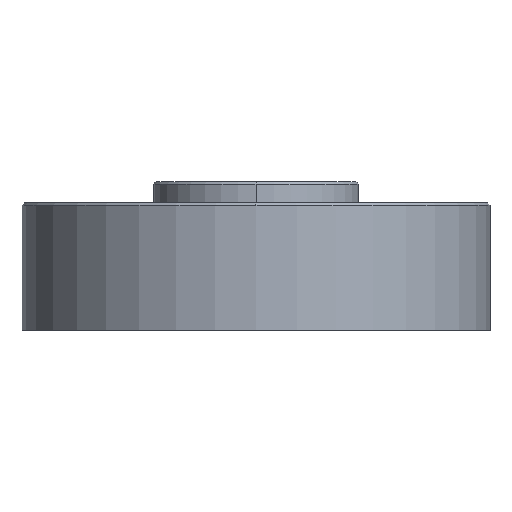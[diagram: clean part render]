
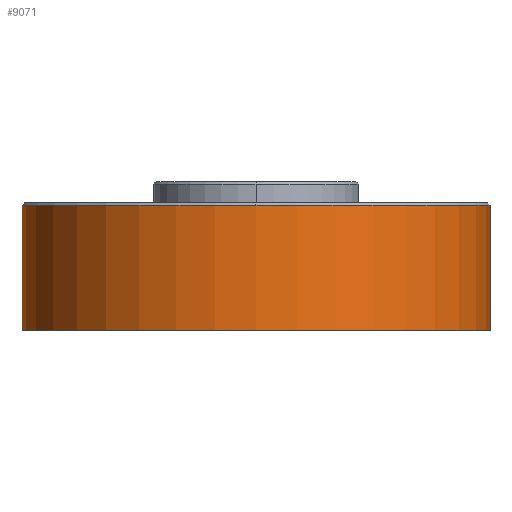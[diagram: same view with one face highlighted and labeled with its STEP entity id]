
A CAD part, left-side view. The second image highlights one B-rep face of the part: STEP entity #9071.
In plain terms, the highlighted cylindrical face has radius 139.649 mm (diameter 279.298 mm), a partial arc.
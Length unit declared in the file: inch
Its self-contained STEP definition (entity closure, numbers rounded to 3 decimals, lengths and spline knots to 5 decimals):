
#588 = CIRCLE ( 'NONE', #589, 5.498 ) ;
#589 = AXIS2_PLACEMENT_3D ( 'NONE', #590, #591, #592 ) ;
#590 = CARTESIAN_POINT ( 'NONE',  ( 0., 0., -2.999 ) ) ;
#591 = DIRECTION ( 'NONE',  ( 0., 0., -1. ) ) ;
#592 = DIRECTION ( 'NONE',  ( -1., 0., 0. ) ) ;
#661 = ORIENTED_EDGE ( 'NONE', *, *, #6495, .F. ) ;
#931 = CARTESIAN_POINT ( 'NONE',  ( 0., -5.498, -0.06 ) ) ;
#1188 = ORIENTED_EDGE ( 'NONE', *, *, #4266, .F. ) ;
#1405 = CIRCLE ( 'NONE', #1406, 5.498 ) ;
#1406 = AXIS2_PLACEMENT_3D ( 'NONE', #1407, #1408, #1409 ) ;
#1407 = CARTESIAN_POINT ( 'NONE',  ( 0., 0., -0.06 ) ) ;
#1408 = DIRECTION ( 'NONE',  ( 0., 0., -1. ) ) ;
#1409 = DIRECTION ( 'NONE',  ( -1., 0., 0. ) ) ;
#1727 = ORIENTED_EDGE ( 'NONE', *, *, #6416, .T. ) ;
#2159 = CARTESIAN_POINT ( 'NONE',  ( 0., -5.498, -2.999 ) ) ;
#2351 = VERTEX_POINT ( 'NONE', #8668 ) ;
#3011 = LINE ( 'NONE', #3012, #3013 ) ;
#3012 = CARTESIAN_POINT ( 'NONE',  ( 0., -5.498, -0.06 ) ) ;
#3013 = VECTOR ( 'NONE', #3014, 39.37008 ) ;
#3014 = DIRECTION ( 'NONE',  ( 0., 0., -1. ) ) ;
#4026 = CARTESIAN_POINT ( 'NONE',  ( -5.498, 0., -0.06 ) ) ;
#4164 = CIRCLE ( 'NONE', #4165, 5.498 ) ;
#4165 = AXIS2_PLACEMENT_3D ( 'NONE', #4166, #4167, #4168 ) ;
#4166 = CARTESIAN_POINT ( 'NONE',  ( 0., 0., -0.06 ) ) ;
#4167 = DIRECTION ( 'NONE',  ( 0., 0., -1. ) ) ;
#4168 = DIRECTION ( 'NONE',  ( -1., 0., 0. ) ) ;
#4266 = EDGE_CURVE ( 'NONE', #2351, #6348, #588, .T. ) ;
#4415 = CARTESIAN_POINT ( 'NONE',  ( 0., 5.498, -2.999 ) ) ;
#4576 = FACE_OUTER_BOUND ( 'NONE', #7566, .T. ) ;
#4581 = CYLINDRICAL_SURFACE ( 'NONE', #4582, 5.498 ) ;
#4582 = AXIS2_PLACEMENT_3D ( 'NONE', #4583, #4584, #4585 ) ;
#4583 = CARTESIAN_POINT ( 'NONE',  ( 0., 0., -0.06 ) ) ;
#4584 = DIRECTION ( 'NONE',  ( 0., 0., -1. ) ) ;
#4585 = DIRECTION ( 'NONE',  ( 0., 1., 0. ) ) ;
#4691 = VERTEX_POINT ( 'NONE', #931 ) ;
#4737 = LINE ( 'NONE', #4738, #4739 ) ;
#4738 = CARTESIAN_POINT ( 'NONE',  ( 0., 5.498, -0.06 ) ) ;
#4739 = VECTOR ( 'NONE', #4740, 39.37008 ) ;
#4740 = DIRECTION ( 'NONE',  ( 0., 0., -1. ) ) ;
#4873 = CARTESIAN_POINT ( 'NONE',  ( 0., 5.498, -0.06 ) ) ;
#4921 = CIRCLE ( 'NONE', #4922, 5.498 ) ;
#4922 = AXIS2_PLACEMENT_3D ( 'NONE', #4923, #4924, #4925 ) ;
#4923 = CARTESIAN_POINT ( 'NONE',  ( 0., 0., -2.999 ) ) ;
#4924 = DIRECTION ( 'NONE',  ( 0., 0., -1. ) ) ;
#4925 = DIRECTION ( 'NONE',  ( -1., 0., 0. ) ) ;
#5841 = VERTEX_POINT ( 'NONE', #2159 ) ;
#6045 = EDGE_CURVE ( 'NONE', #4691, #5841, #3011, .T. ) ;
#6266 = VERTEX_POINT ( 'NONE', #4026 ) ;
#6304 = EDGE_CURVE ( 'NONE', #6266, #6464, #4164, .T. ) ;
#6348 = VERTEX_POINT ( 'NONE', #4415 ) ;
#6416 = EDGE_CURVE ( 'NONE', #6464, #6348, #4737, .T. ) ;
#6464 = VERTEX_POINT ( 'NONE', #4873 ) ;
#6495 = EDGE_CURVE ( 'NONE', #5841, #2351, #4921, .T. ) ;
#7231 = ORIENTED_EDGE ( 'NONE', *, *, #6304, .T. ) ;
#7310 = EDGE_CURVE ( 'NONE', #4691, #6266, #1405, .T. ) ;
#7372 = ORIENTED_EDGE ( 'NONE', *, *, #7310, .T. ) ;
#7486 = ORIENTED_EDGE ( 'NONE', *, *, #6045, .F. ) ;
#7566 = EDGE_LOOP ( 'NONE', ( #7486, #7372, #7231, #1727, #1188, #661 ) ) ;
#8668 = CARTESIAN_POINT ( 'NONE',  ( -5.498, 0., -2.999 ) ) ;
#9071 = ADVANCED_FACE ( 'NONE', ( #4576 ), #4581, .T. ) ;
